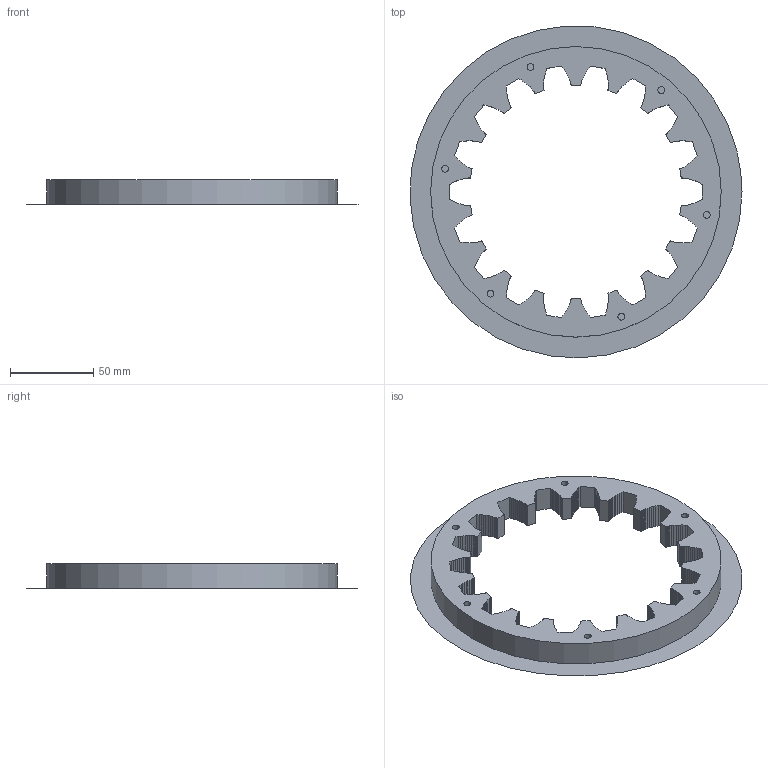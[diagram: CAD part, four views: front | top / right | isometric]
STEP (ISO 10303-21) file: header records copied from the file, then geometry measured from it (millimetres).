
FILE_DESCRIPTION( ( 'Unknown' ), '1' );
FILE_NAME( 'F:/navkite transat/construction/2016/3D ET ASSEMBLAGES/self tailing/WI 22.stp', 'Unknown', ( 'GMA' ), ( 'Unknown' ), 'XStep 1.0', 'Unknown', ' ' );
FILE_SCHEMA( ( 'automotive_design' ) );
Length unit declared in the file: millimetre
Products named in the file (3): 1
Bounding box: 199.93 x 199.82 x 15 mm (x, y, z)
Volume: 120590.1 mm3; surface area: 52123.7 mm2
Topology: 1 solids, 2 shells, 550 faces, 2188 edges, 1641 vertices
Faces by surface type: plane 543, cylinder 7
Full cylindrical faces by diameter (mm): 4.134 x6, 175 x1
Entity records: 26950 total; most frequent: CARTESIAN_POINT 4439, ORIENTED_EDGE 3809, DIRECTION 3294, EDGE_CURVE 2176, LINE 2160, VECTOR 2160, VERTEX_POINT 1636, EDGE_LOOP 572
